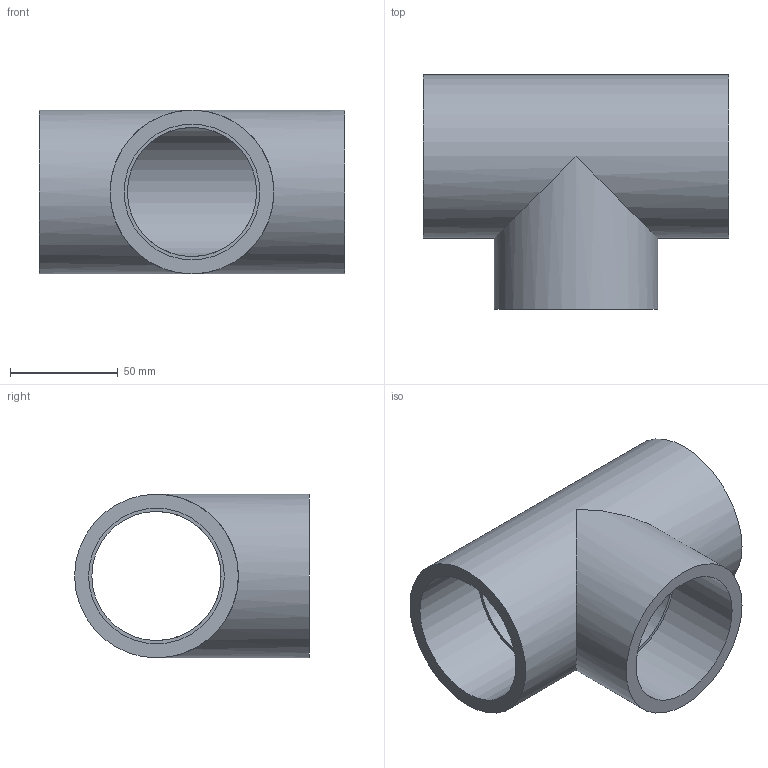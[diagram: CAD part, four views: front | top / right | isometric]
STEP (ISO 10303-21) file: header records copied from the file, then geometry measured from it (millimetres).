
FILE_DESCRIPTION(/* description */ ('PVC ti a 90° incollaggio metrico'),/* implementation_level */ '2;1');
FILE_NAME(/* name */ 'C:\Users\POLYPIPE\Desktop\DATASET INVENTOR\LIBRERIA EFFAST\RACCORDI 3DxWEB\RDR\3D_RDRTID\3D_RDRTID0630.stp',/* time_stamp */ '2018-01-19T15:38:20+01:00',/* author */ ('POLYPIPE'),/* organization */ ('Polypipe Italia s.r.l.'),/* preprocessor_version */ 'ST-DEVELOPER v16.1',/* originating_system */ 'Autodesk Inventor 2016',/* authorisation */ '');
FILE_SCHEMA (('CONFIG_CONTROL_DESIGN'));
Length unit declared in the file: millimetre
Products named in the file (1): 3D_RDRTID
Bounding box: 142 x 109 x 76 mm (x, y, z)
Volume: 256658.8 mm3; surface area: 78455.2 mm2
Topology: 1 solids, 1 shells, 13 faces, 25 edges, 18 vertices
Faces by surface type: cylinder 7, plane 6
Full cylindrical faces by diameter (mm): 60 x2, 63 x3, 76 x2
Entity records: 326 total; most frequent: DIRECTION 60, CARTESIAN_POINT 46, ORIENTED_EDGE 32, AXIS2_PLACEMENT_3D 30, EDGE_LOOP 28, VERTEX_POINT 16, EDGE_CURVE 16, FACE_BOUND 15
